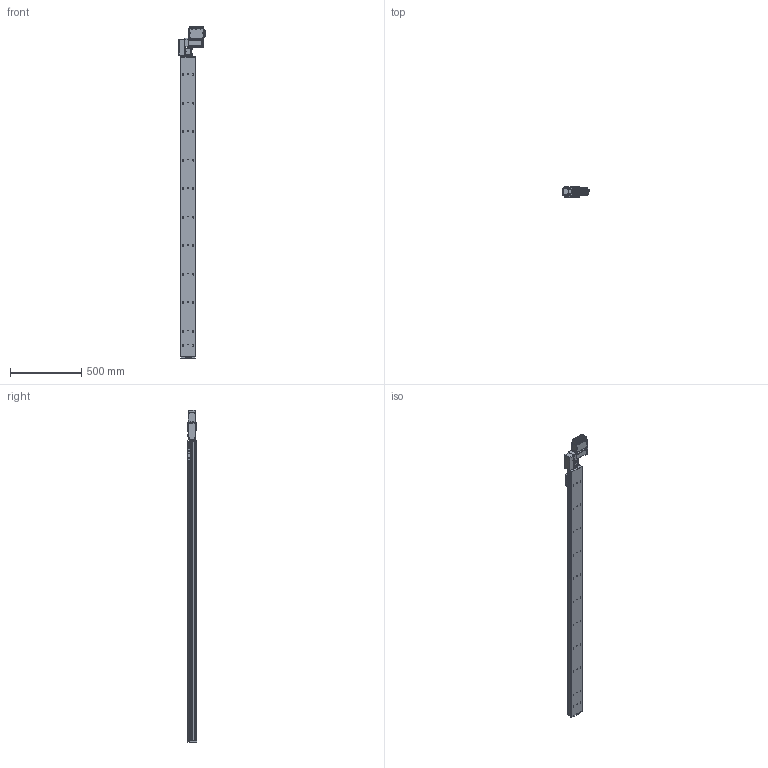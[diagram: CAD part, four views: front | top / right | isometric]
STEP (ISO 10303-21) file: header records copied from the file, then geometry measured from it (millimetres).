
FILE_DESCRIPTION (( 'STEP AP203' ), '1' );
FILE_NAME ('S10 TBN LH S2100.STEP', '2012-06-18T09:52:19', ( 'Conseil Régional Haute-Normandie' ), ( 'Conseil Régional Haute-Normandie' ), 'SwSTEP 2.0', 'SolidWorks 2010', '' );
FILE_SCHEMA (( 'CONFIG_CONTROL_DESIGN' ));
Length unit declared in the file: millimetre
Products named in the file (30): embout; S10 TBN LH S2100; T_X2_00F4_X0_le lat_X2_00E9_X0_rale_5; Vis TF 3 torkx_1_1; axe 2100_Default; vis M5 L12_Default; cache t皻e axe_Default; palette tbn; cache t皻e_Default; Cvis M5 L30_Default; T_X2_00F4_X0_le contre le moteur_5; plaque de bout s10_Default; Plaque racord_Default; renvoi LH_Default; Vis M5 L16-2_Default_1; Moteur 60BLDC90A_3; vis M5 L5_Default; Assem1_7; BU41 Carte Alimentation P05_3; Connecteur rond D12 4cts_5; Colonnette_3; BU45 Carte d''axe A11_5; Couvercle_3; T_X2_00F4_X0_le fond_3; Connecteur rond D10 3cts_5; Sub D 9cts 90_X2_00B_X0__3; Radiateur profil_X2_00E9_X0_ 100x25_3; Colonnette ronde_3; T_X2_00F4_X0_le Arri_X2_00E8_X0_re_5; axe 2100
Assembly tree (63 placements, depth 3):
  S10 TBN LH S2100
    embout
    vis M5 L12_Default  x4
    Cvis M5 L30_Default  x2
    cache t皻e_Default  x2
    plaque de bout s10_Default
    cache t皻e axe_Default
    palette tbn
    Vis M5 L16-2_Default_1  x4
    vis M5 L5_Default  x4
    Plaque racord_Default
    Assem1_7
      Connecteur rond D12 4cts_5
      Vis TF 3 torkx_1_1  x21
      T_X2_00F4_X0_le fond_3
      T_X2_00F4_X0_le Arri_X2_00E8_X0_re_5
      Colonnette_3  x2
      Couvercle_3
      Connecteur rond D10 3cts_5  x2
      T_X2_00F4_X0_le lat_X2_00E9_X0_rale_5  x2
      Sub D 9cts 90_X2_00B_X0__3
      Colonnette ronde_3
      Radiateur profil_X2_00E9_X0_ 100x25_3
      BU45 Carte d''axe A11_5
      Moteur 60BLDC90A_3
      T_X2_00F4_X0_le contre le moteur_5
      BU41 Carte Alimentation P05_3
    renvoi LH_Default
    axe 2100_Default
      axe 2100
Bounding box: 189.8 x 66.75 x 2328.74 mm (x, y, z)
Volume: 11731567.1 mm3; surface area: 1302939.3 mm2
Topology: 61 solids, 61 shells, 2360 faces, 5844 edges, 3767 vertices
Faces by surface type: plane 1111, cylinder 1024, cone 182, bspline 40, torus 3
Entity records: 49584 total; most frequent: CARTESIAN_POINT 8903, DIRECTION 8037, ORIENTED_EDGE 7268, EDGE_CURVE 3634, AXIS2_PLACEMENT_3D 3000, VERTEX_POINT 2371, VECTOR 2037, LINE 2037
